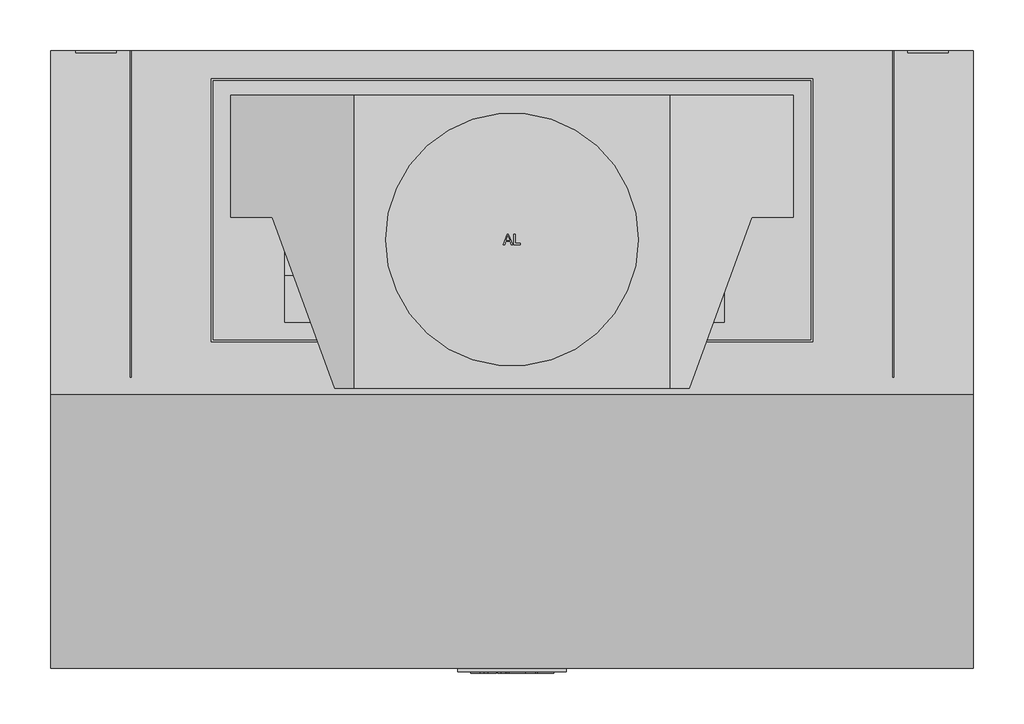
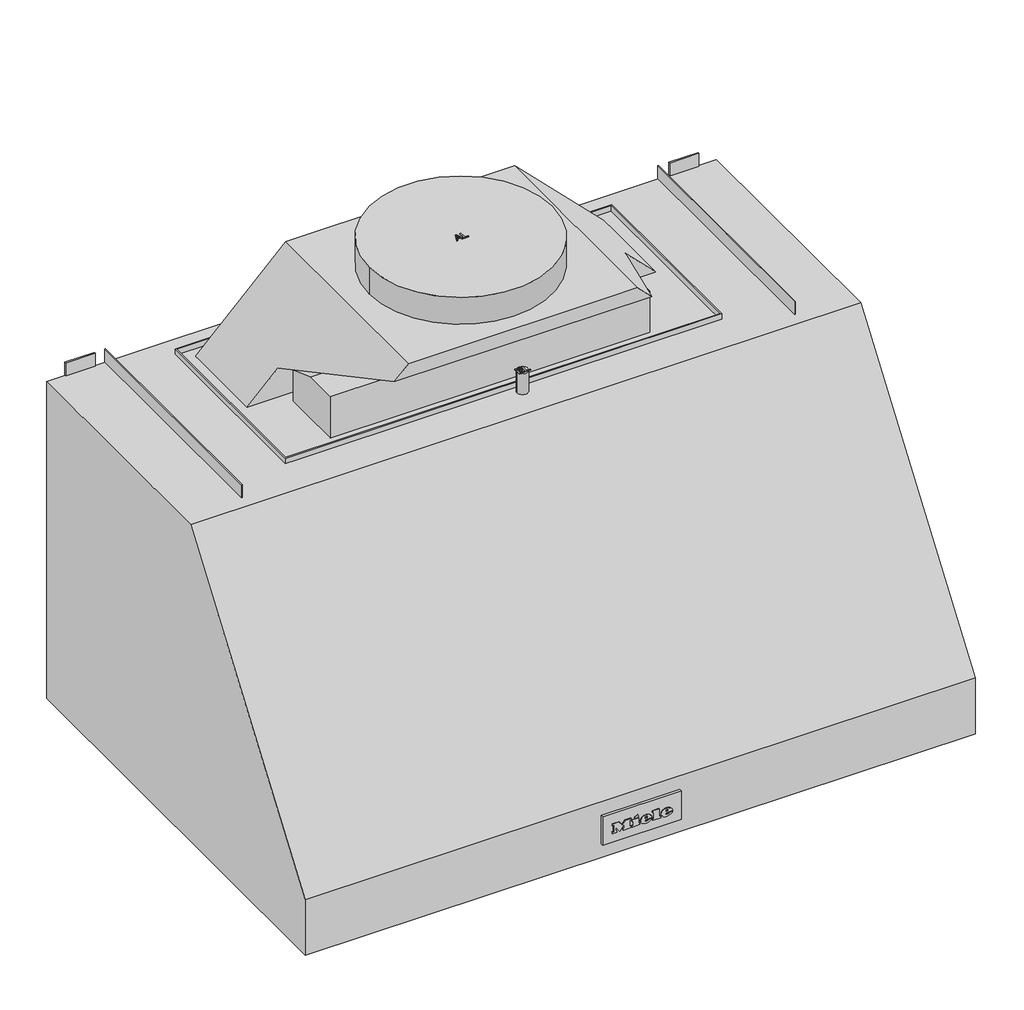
# Not in any storey: 1 proxy.
"""IFC4 building model written with IfcOpenShell, lengths in millimetres."""

from ifc_helpers import new_model, si_unit, origin, place, context, project, spatial, transform, mapped, element, save
from components import specialty_equipment_fada4b7b

model = new_model("IFC4")

# Units and contexts
model_context = context("Model", 3, world=origin())
ifc_project = project(units=[si_unit("LENGTHUNIT", "METRE", prefix="MILLI")], contexts=[model_context])

# Site, building
site = spatial("IfcSite", under=ifc_project)
building = spatial("IfcBuilding", under=site)

# Proxy
placement = place(None, origin())
specialty_equipment_shape = specialty_equipment_fada4b7b(model_context)
element("IfcBuildingElementProxy", 1, Name="12050480_BR_DAR1230-3_EDST : 28123051_BR_12050480_DAR1230-3_EDST", ObjectType="12050480_BR_DAR1230-3_EDST : 28123051_BR_12050480_DAR1230-3_EDST", at=placement, inside=building, context=model_context, shape_type="MappedRepresentation", body=[
    mapped(specialty_equipment_shape, transform((0.0, 0.0, 0.0), x_axis=(1.0, 0.0, 0.0), y_axis=(0.0, 1.0, 0.0), z_axis=(0.0, 0.0, 1.0))),
])

save(model, "model.ifc")
